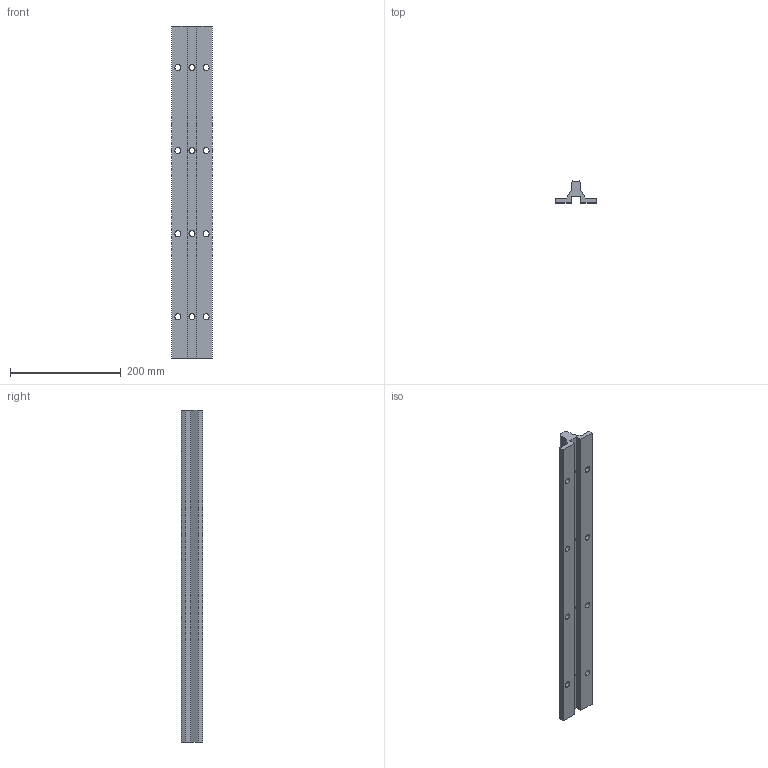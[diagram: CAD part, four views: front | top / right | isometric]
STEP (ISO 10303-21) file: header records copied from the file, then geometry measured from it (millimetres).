
FILE_DESCRIPTION (( 'STEP AP203' ), '1' );
FILE_NAME ('KWS50-30 T1-T2.step', '2020-03-23T07:52:49', ( '' ), ( '' ), 'SwSTEP 2.0', 'SolidWorks 2019', '' );
FILE_SCHEMA (( 'CONFIG_CONTROL_DESIGN' ));
Length unit declared in the file: millimetre
Products named in the file (2): KWS50-30 T1-T2
Bounding box: 74 x 39.01 x 599.5 mm (x, y, z)
Volume: 601281.1 mm3; surface area: 145023.8 mm2
Topology: 1 solids, 1 shells, 43 faces, 127 edges, 82 vertices
Faces by surface type: cylinder 24, plane 19
Entity records: 1640 total; most frequent: CARTESIAN_POINT 278, ORIENTED_EDGE 254, DIRECTION 249, EDGE_CURVE 127, AXIS2_PLACEMENT_3D 85, VERTEX_POINT 82, VECTOR 79, LINE 79
